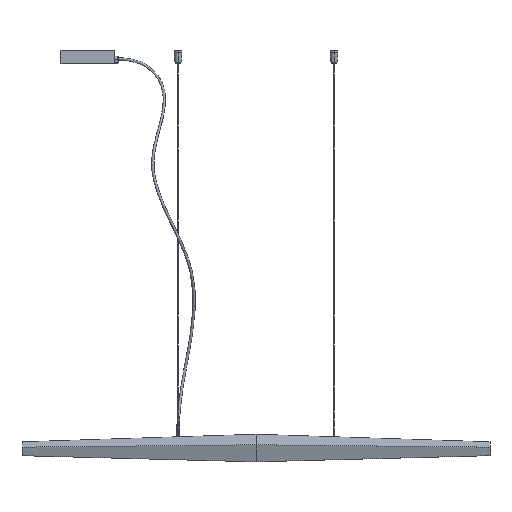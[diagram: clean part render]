
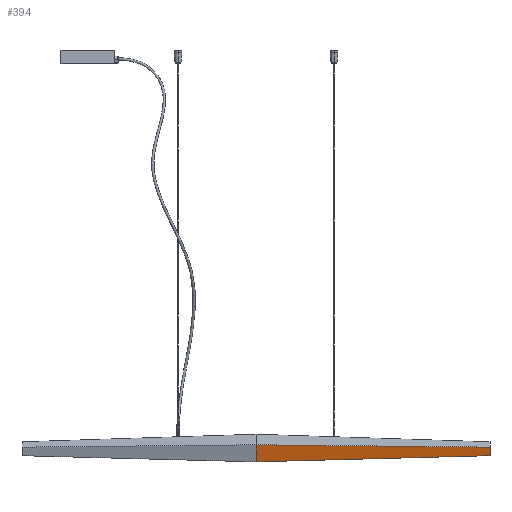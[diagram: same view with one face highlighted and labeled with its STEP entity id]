
A CAD part, front view. The second image highlights one B-rep face of the part: STEP entity #394.
In plain terms, the highlighted planar face has unit normal (0.026, -0.951, -0.309) as drawn and (0.026, -0.309, 0.951) by its records, which use the part's own axes.
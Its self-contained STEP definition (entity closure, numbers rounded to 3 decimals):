
#394=ADVANCED_FACE('',(#894),#7440,.T.);
#894=FACE_OUTER_BOUND('',#1412,.T.);
#1412=EDGE_LOOP('',(#2419,#2420,#2421,#2422));
#2419=ORIENTED_EDGE('',*,*,#4566,.T.);
#2420=ORIENTED_EDGE('',*,*,#4567,.T.);
#2421=ORIENTED_EDGE('',*,*,#4568,.T.);
#2422=ORIENTED_EDGE('',*,*,#4564,.F.);
#4564=EDGE_CURVE('',#6902,#6903,#5625,.T.);
#4566=EDGE_CURVE('',#6902,#6904,#5627,.T.);
#4567=EDGE_CURVE('',#6904,#6905,#5628,.T.);
#4568=EDGE_CURVE('',#6905,#6903,#5629,.T.);
#5625=B_SPLINE_CURVE_WITH_KNOTS('',1,(#14540,#14541),.UNSPECIFIED.,.F.,
 .F.,(2,2),(0.,600.314),.UNSPECIFIED.);
#5627=B_SPLINE_CURVE_WITH_KNOTS('',1,(#14544,#14545),.UNSPECIFIED.,.F.,
 .F.,(2,2),(0.,45.814),.UNSPECIFIED.);
#5628=B_SPLINE_CURVE_WITH_KNOTS('',1,(#14546,#14547),.UNSPECIFIED.,.F.,
 .F.,(2,2),(0.,600.314),.UNSPECIFIED.);
#5629=B_SPLINE_CURVE_WITH_KNOTS('',1,(#14548,#14549),.UNSPECIFIED.,.F.,
 .F.,(2,2),(0.,22.983),.UNSPECIFIED.);
#6902=VERTEX_POINT('',#14326);
#6903=VERTEX_POINT('',#14327);
#6904=VERTEX_POINT('',#14328);
#6905=VERTEX_POINT('',#14329);
#7440=PLANE('',#8295);
#8295=AXIS2_PLACEMENT_3D('',#14047,#8616,$);
#8616=DIRECTION('',(0.026,-0.309,0.951));
#14047=CARTESIAN_POINT('',(-60.41,16.247,40.093));
#14326=CARTESIAN_POINT('',(0.,12.043,37.064));
#14327=CARTESIAN_POINT('',(600.,6.042,18.594));
#14328=CARTESIAN_POINT('',(0.,-31.529,22.907));
#14329=CARTESIAN_POINT('',(600.,-15.817,11.492));
#14540=CARTESIAN_POINT('',(0.,12.043,37.064));
#14541=CARTESIAN_POINT('',(600.,6.042,18.594));
#14544=CARTESIAN_POINT('',(0.,12.043,37.064));
#14545=CARTESIAN_POINT('',(0.,-31.529,22.907));
#14546=CARTESIAN_POINT('',(0.,-31.529,22.907));
#14547=CARTESIAN_POINT('',(600.,-15.817,11.492));
#14548=CARTESIAN_POINT('',(600.,-15.817,11.492));
#14549=CARTESIAN_POINT('',(600.,6.042,18.594));
